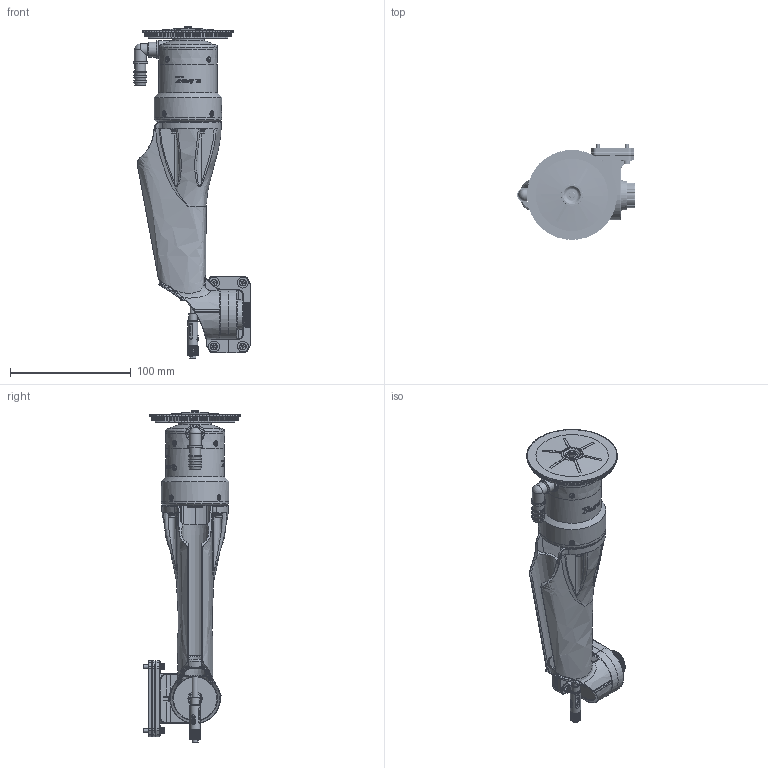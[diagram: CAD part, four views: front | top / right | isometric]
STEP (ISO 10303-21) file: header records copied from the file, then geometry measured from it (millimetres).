
FILE_DESCRIPTION (( 'STEP AP214' ), '1' );
FILE_NAME ('30553000101-COMBO-SPRAY-9L-brushless-10A-18S-V1-HW-彶馨訬怓.STEP', '2024-08-27T02:15:43', ( '' ), ( '' ), 'SwSTEP 2.0', 'SolidWorks 2021', '' );
FILE_SCHEMA (( 'AUTOMOTIVE_DESIGN' ));
Length unit declared in the file: millimetre
Products named in the file (1): 30553000101-COMBO-SPRAY-9L-brushless-10A-18S-V1-HW-彶馨訬怓
Bounding box: 97.75 x 80.19 x 275.35 mm (x, y, z)
Volume: 299798.1 mm3; surface area: 118645.7 mm2
Topology: 20 solids, 34 shells, 8401 faces, 21627 edges, 13753 vertices
Faces by surface type: plane 4030, bspline 2163, cylinder 1850, cone 204, torus 137, sphere 17
Full cylindrical faces by diameter (mm): 0.4 x6, 1.6 x4, 2 x8, 2.4 x8, 2.5 x7, 2.9 x2, 3 x10, 3.2 x8, 4 x9, 4.5 x12, 4.6 x2, 5 x7, 5.3 x1, 5.5 x8, 6.3 x1, 6.5 x1, 6.8 x4, 7 x2, 7.1 x1, 7.12 x1, 7.5 x1, 8.6 x1, 9 x5, 10 x6, 10.8 x3, 11.5 x1, 12 x3, 12.4 x1, 15 x1, 18 x1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
Entity records: 443222 total; most frequent: CARTESIAN_POINT 170665, ORIENTED_EDGE 42270, DIRECTION 29341, EDGE_CURVE 21135, VERTEX_POINT 13584, AXIS2_PLACEMENT_3D 9935, VECTOR 9471, LINE 9471
